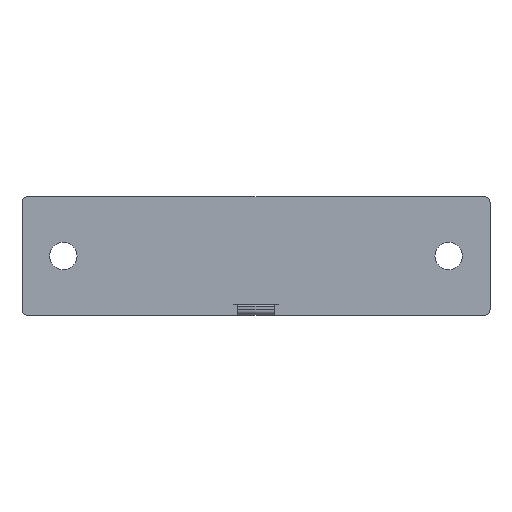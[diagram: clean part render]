
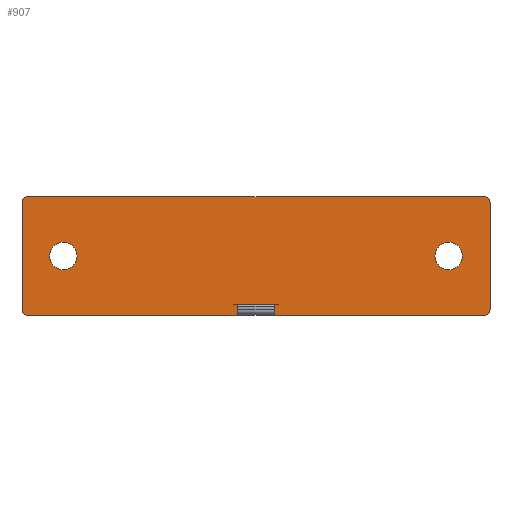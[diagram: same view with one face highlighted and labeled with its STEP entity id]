
A CAD part, front view. The second image highlights one B-rep face of the part: STEP entity #907.
In plain terms, the highlighted planar face has unit normal (0, -1, 0).
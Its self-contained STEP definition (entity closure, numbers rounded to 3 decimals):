
#2 = ORIENTED_EDGE ( 'NONE', *, *, #1934, .T. ) ;
#20 = LINE ( 'NONE', #839, #1603 ) ;
#22 = AXIS2_PLACEMENT_3D ( 'NONE', #1709, #1127, #1267 ) ;
#43 = CIRCLE ( 'NONE', #1788, 1. ) ;
#48 = EDGE_CURVE ( 'NONE', #443, #1890, #631, .T. ) ;
#58 = ORIENTED_EDGE ( 'NONE', *, *, #1381, .T. ) ;
#89 = CARTESIAN_POINT ( 'NONE',  ( -35., 0., 0. ) ) ;
#116 = VERTEX_POINT ( 'NONE', #762 ) ;
#157 = CIRCLE ( 'NONE', #1120, 2.5 ) ;
#159 = CARTESIAN_POINT ( 'NONE',  ( 3.4, 0., -10.75 ) ) ;
#162 = FACE_OUTER_BOUND ( 'NONE', #777, .T. ) ;
#174 = CARTESIAN_POINT ( 'NONE',  ( 42.5, 0., 10.75 ) ) ;
#185 = AXIS2_PLACEMENT_3D ( 'NONE', #735, #434, #1323 ) ;
#193 = VERTEX_POINT ( 'NONE', #1530 ) ;
#206 = VECTOR ( 'NONE', #1182, 1000. ) ;
#210 = CARTESIAN_POINT ( 'NONE',  ( 42.5, 0., -8.75 ) ) ;
#229 = ORIENTED_EDGE ( 'NONE', *, *, #334, .T. ) ;
#243 = EDGE_CURVE ( 'NONE', #810, #1297, #1865, .T. ) ;
#257 = CARTESIAN_POINT ( 'NONE',  ( -41.5, 0., -9.75 ) ) ;
#281 = VERTEX_POINT ( 'NONE', #1419 ) ;
#299 = DIRECTION ( 'NONE',  ( 0., -1., 0. ) ) ;
#334 = EDGE_CURVE ( 'NONE', #763, #1394, #1765, .T. ) ;
#406 = DIRECTION ( 'NONE',  ( 0., -1., 0. ) ) ;
#421 = CIRCLE ( 'NONE', #1511, 1. ) ;
#427 = EDGE_CURVE ( 'NONE', #810, #1425, #421, .T. ) ;
#429 = DIRECTION ( 'NONE',  ( 0., 0., 1. ) ) ;
#434 = DIRECTION ( 'NONE',  ( 0., 1., 0. ) ) ;
#441 = LINE ( 'NONE', #906, #1694 ) ;
#443 = VERTEX_POINT ( 'NONE', #1023 ) ;
#448 = ORIENTED_EDGE ( 'NONE', *, *, #838, .F. ) ;
#454 = DIRECTION ( 'NONE',  ( 0., 0., 1. ) ) ;
#458 = CARTESIAN_POINT ( 'NONE',  ( 41.5, 0., -10.75 ) ) ;
#498 = DIRECTION ( 'NONE',  ( 1., 0., 0. ) ) ;
#512 = FACE_BOUND ( 'NONE', #517, .T. ) ;
#517 = EDGE_LOOP ( 'NONE', ( #1590, #1698 ) ) ;
#534 = VECTOR ( 'NONE', #454, 1000. ) ;
#564 = CARTESIAN_POINT ( 'NONE',  ( -35., 0., -2.5 ) ) ;
#581 = LINE ( 'NONE', #210, #1714 ) ;
#583 = AXIS2_PLACEMENT_3D ( 'NONE', #89, #971, #1251 ) ;
#609 = ORIENTED_EDGE ( 'NONE', *, *, #243, .F. ) ;
#631 = LINE ( 'NONE', #1784, #534 ) ;
#640 = CARTESIAN_POINT ( 'NONE',  ( -42.5, 0., -10.75 ) ) ;
#650 = VERTEX_POINT ( 'NONE', #1145 ) ;
#695 = DIRECTION ( 'NONE',  ( 0., 0., 1. ) ) ;
#698 = CARTESIAN_POINT ( 'NONE',  ( 42.5, 0., -10.75 ) ) ;
#700 = VERTEX_POINT ( 'NONE', #1774 ) ;
#702 = ORIENTED_EDGE ( 'NONE', *, *, #1029, .F. ) ;
#735 = CARTESIAN_POINT ( 'NONE',  ( 35., 0., 0. ) ) ;
#758 = DIRECTION ( 'NONE',  ( 0., 0., 1. ) ) ;
#762 = CARTESIAN_POINT ( 'NONE',  ( 3.4, 0., -8.75 ) ) ;
#763 = VERTEX_POINT ( 'NONE', #458 ) ;
#766 = DIRECTION ( 'NONE',  ( 0., 0., 1. ) ) ;
#770 = CARTESIAN_POINT ( 'NONE',  ( -42.5, 0., -10.75 ) ) ;
#777 = EDGE_LOOP ( 'NONE', ( #1096, #229, #1444, #1866, #609, #1490, #448, #2, #1092, #1265, #702, #916 ) ) ;
#795 = DIRECTION ( 'NONE',  ( -1., 0., 0. ) ) ;
#801 = CARTESIAN_POINT ( 'NONE',  ( -35., 0., 0. ) ) ;
#810 = VERTEX_POINT ( 'NONE', #900 ) ;
#838 = EDGE_CURVE ( 'NONE', #1124, #1425, #441, .T. ) ;
#839 = CARTESIAN_POINT ( 'NONE',  ( 3.4, 0., -8.75 ) ) ;
#868 = EDGE_LOOP ( 'NONE', ( #1930, #58 ) ) ;
#900 = CARTESIAN_POINT ( 'NONE',  ( -41.5, 0., 10.75 ) ) ;
#906 = CARTESIAN_POINT ( 'NONE',  ( -42.5, 0., -10.75 ) ) ;
#907 = ADVANCED_FACE ( 'NONE', ( #162, #1587, #512 ), #1662, .F. ) ;
#916 = ORIENTED_EDGE ( 'NONE', *, *, #1103, .T. ) ;
#936 = VERTEX_POINT ( 'NONE', #159 ) ;
#946 = CARTESIAN_POINT ( 'NONE',  ( -42.5, 0., 10.75 ) ) ;
#971 = DIRECTION ( 'NONE',  ( 0., 1., 0. ) ) ;
#998 = CARTESIAN_POINT ( 'NONE',  ( -41.5, 0., 9.75 ) ) ;
#999 = AXIS2_PLACEMENT_3D ( 'NONE', #174, #1811, #758 ) ;
#1003 = DIRECTION ( 'NONE',  ( 0., 0., 1. ) ) ;
#1013 = AXIS2_PLACEMENT_3D ( 'NONE', #801, #1391, #1837 ) ;
#1015 = CARTESIAN_POINT ( 'NONE',  ( -3.4, 0., -8.75 ) ) ;
#1016 = CARTESIAN_POINT ( 'NONE',  ( 41.5, 0., 10.75 ) ) ;
#1023 = CARTESIAN_POINT ( 'NONE',  ( -3.4, 0., -10.75 ) ) ;
#1029 = EDGE_CURVE ( 'NONE', #116, #1890, #581, .T. ) ;
#1038 = EDGE_CURVE ( 'NONE', #1248, #650, #1633, .T. ) ;
#1041 = VECTOR ( 'NONE', #795, 1000. ) ;
#1062 = CIRCLE ( 'NONE', #583, 2.5 ) ;
#1088 = VECTOR ( 'NONE', #1483, 1000. ) ;
#1092 = ORIENTED_EDGE ( 'NONE', *, *, #1470, .F. ) ;
#1096 = ORIENTED_EDGE ( 'NONE', *, *, #1663, .F. ) ;
#1103 = EDGE_CURVE ( 'NONE', #116, #936, #20, .T. ) ;
#1120 = AXIS2_PLACEMENT_3D ( 'NONE', #1308, #1917, #429 ) ;
#1124 = VERTEX_POINT ( 'NONE', #1259 ) ;
#1127 = DIRECTION ( 'NONE',  ( 0., -1., 0. ) ) ;
#1145 = CARTESIAN_POINT ( 'NONE',  ( -35., 0., 2.5 ) ) ;
#1169 = DIRECTION ( 'NONE',  ( 0., 0., 1. ) ) ;
#1179 = CIRCLE ( 'NONE', #1867, 1. ) ;
#1182 = DIRECTION ( 'NONE',  ( 0., 0., -1. ) ) ;
#1207 = CARTESIAN_POINT ( 'NONE',  ( 35., 0., -2.5 ) ) ;
#1248 = VERTEX_POINT ( 'NONE', #564 ) ;
#1251 = DIRECTION ( 'NONE',  ( 0., 0., 1. ) ) ;
#1259 = CARTESIAN_POINT ( 'NONE',  ( -42.5, 0., -9.75 ) ) ;
#1265 = ORIENTED_EDGE ( 'NONE', *, *, #48, .T. ) ;
#1267 = DIRECTION ( 'NONE',  ( 0., 0., 1. ) ) ;
#1297 = VERTEX_POINT ( 'NONE', #1016 ) ;
#1308 = CARTESIAN_POINT ( 'NONE',  ( 35., 0., 0. ) ) ;
#1316 = CARTESIAN_POINT ( 'NONE',  ( -42.5, 0., 9.75 ) ) ;
#1323 = DIRECTION ( 'NONE',  ( 0., 0., 1. ) ) ;
#1326 = EDGE_CURVE ( 'NONE', #281, #1297, #1179, .T. ) ;
#1329 = EDGE_CURVE ( 'NONE', #281, #1394, #1528, .T. ) ;
#1342 = EDGE_CURVE ( 'NONE', #1449, #700, #1935, .T. ) ;
#1366 = VECTOR ( 'NONE', #498, 1000. ) ;
#1381 = EDGE_CURVE ( 'NONE', #700, #1449, #157, .T. ) ;
#1391 = DIRECTION ( 'NONE',  ( 0., 1., 0. ) ) ;
#1394 = VERTEX_POINT ( 'NONE', #1767 ) ;
#1419 = CARTESIAN_POINT ( 'NONE',  ( 42.5, 0., 9.75 ) ) ;
#1425 = VERTEX_POINT ( 'NONE', #1316 ) ;
#1426 = LINE ( 'NONE', #640, #1041 ) ;
#1444 = ORIENTED_EDGE ( 'NONE', *, *, #1329, .F. ) ;
#1449 = VERTEX_POINT ( 'NONE', #1207 ) ;
#1470 = EDGE_CURVE ( 'NONE', #443, #193, #1708, .T. ) ;
#1479 = CARTESIAN_POINT ( 'NONE',  ( 41.5, 0., 9.75 ) ) ;
#1483 = DIRECTION ( 'NONE',  ( -1., 0., 0. ) ) ;
#1490 = ORIENTED_EDGE ( 'NONE', *, *, #427, .T. ) ;
#1511 = AXIS2_PLACEMENT_3D ( 'NONE', #998, #406, #1003 ) ;
#1528 = LINE ( 'NONE', #698, #206 ) ;
#1530 = CARTESIAN_POINT ( 'NONE',  ( -41.5, 0., -10.75 ) ) ;
#1587 = FACE_BOUND ( 'NONE', #868, .T. ) ;
#1590 = ORIENTED_EDGE ( 'NONE', *, *, #1038, .T. ) ;
#1603 = VECTOR ( 'NONE', #1861, 1000. ) ;
#1633 = CIRCLE ( 'NONE', #1013, 2.5 ) ;
#1662 = PLANE ( 'NONE',  #999 ) ;
#1663 = EDGE_CURVE ( 'NONE', #763, #936, #1426, .T. ) ;
#1678 = DIRECTION ( 'NONE',  ( -1., 0., 0. ) ) ;
#1694 = VECTOR ( 'NONE', #766, 1000. ) ;
#1698 = ORIENTED_EDGE ( 'NONE', *, *, #1785, .T. ) ;
#1708 = LINE ( 'NONE', #770, #1088 ) ;
#1709 = CARTESIAN_POINT ( 'NONE',  ( 41.5, 0., -9.75 ) ) ;
#1714 = VECTOR ( 'NONE', #1678, 1000. ) ;
#1765 = CIRCLE ( 'NONE', #22, 1. ) ;
#1767 = CARTESIAN_POINT ( 'NONE',  ( 42.5, 0., -9.75 ) ) ;
#1774 = CARTESIAN_POINT ( 'NONE',  ( 35., 0., 2.5 ) ) ;
#1784 = CARTESIAN_POINT ( 'NONE',  ( -3.4, 0., -8.75 ) ) ;
#1785 = EDGE_CURVE ( 'NONE', #650, #1248, #1062, .T. ) ;
#1788 = AXIS2_PLACEMENT_3D ( 'NONE', #257, #1884, #695 ) ;
#1811 = DIRECTION ( 'NONE',  ( 0., 1., 0. ) ) ;
#1837 = DIRECTION ( 'NONE',  ( 0., 0., 1. ) ) ;
#1861 = DIRECTION ( 'NONE',  ( 0., 0., -1. ) ) ;
#1865 = LINE ( 'NONE', #946, #1366 ) ;
#1866 = ORIENTED_EDGE ( 'NONE', *, *, #1326, .T. ) ;
#1867 = AXIS2_PLACEMENT_3D ( 'NONE', #1479, #299, #1169 ) ;
#1884 = DIRECTION ( 'NONE',  ( 0., -1., 0. ) ) ;
#1890 = VERTEX_POINT ( 'NONE', #1015 ) ;
#1917 = DIRECTION ( 'NONE',  ( 0., 1., 0. ) ) ;
#1930 = ORIENTED_EDGE ( 'NONE', *, *, #1342, .T. ) ;
#1934 = EDGE_CURVE ( 'NONE', #1124, #193, #43, .T. ) ;
#1935 = CIRCLE ( 'NONE', #185, 2.5 ) ;
